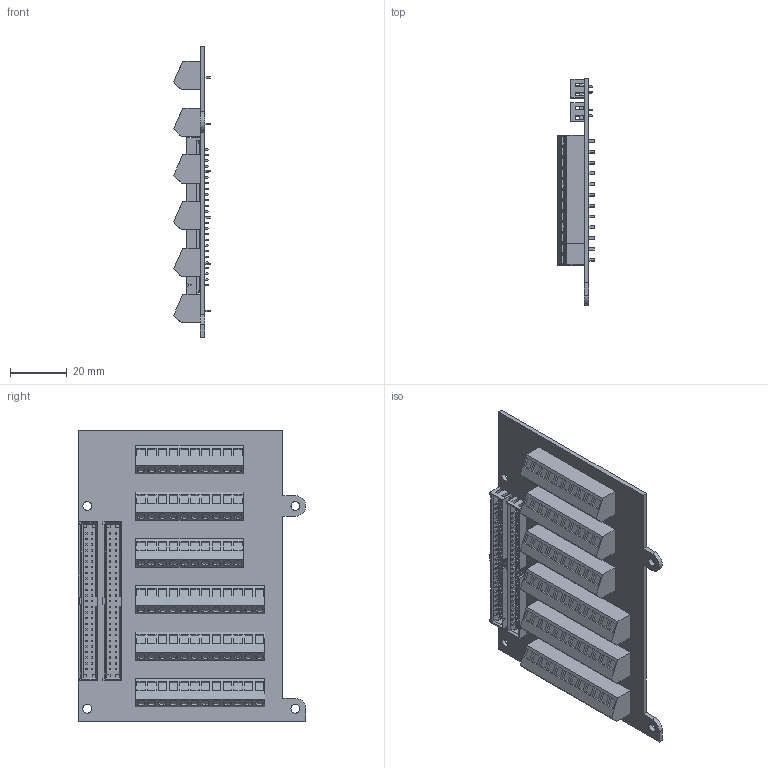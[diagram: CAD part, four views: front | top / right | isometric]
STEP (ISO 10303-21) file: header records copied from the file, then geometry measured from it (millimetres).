
FILE_DESCRIPTION((''),'2;1');
FILE_NAME('CU_SBRIO-2MM-IDC-BREAKOUT','2016-09-07T',('jbuhisan'),(''),'CREO PARAMETRIC BY PTC INC, 2015380','CREO PARAMETRIC BY PTC INC, 2015380','');
FILE_SCHEMA(('CONFIG_CONTROL_DESIGN'));
Products named in the file (1): CU_SBRIO-2MM-IDC-BREAKOUT
Bounding box: 13.01 x 80.47 x 102.87 mm (x, y, z)
Volume: 32235.7 mm3; surface area: 26913.3 mm2
Topology: 1 solids, 1 shells, 3587 faces, 8683 edges, 5386 vertices
Faces by surface type: plane 3167, cylinder 420
Entity records: 102473 total; most frequent: CARTESIAN_POINT 17656, ORIENTED_EDGE 17366, DIRECTION 16697, EDGE_CURVE 8683, VECTOR 7843, LINE 7843, VERTEX_POINT 5386, AXIS2_PLACEMENT_3D 4427
